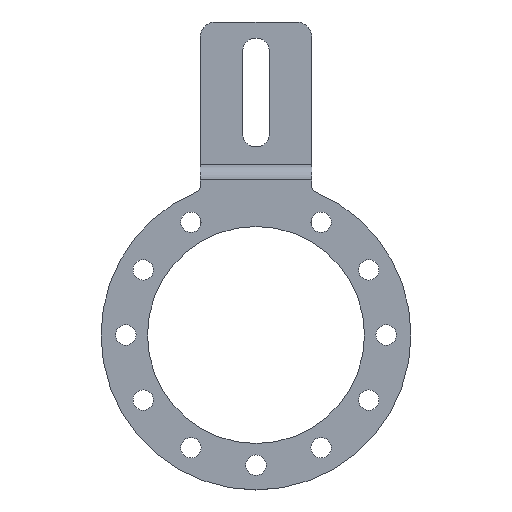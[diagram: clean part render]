
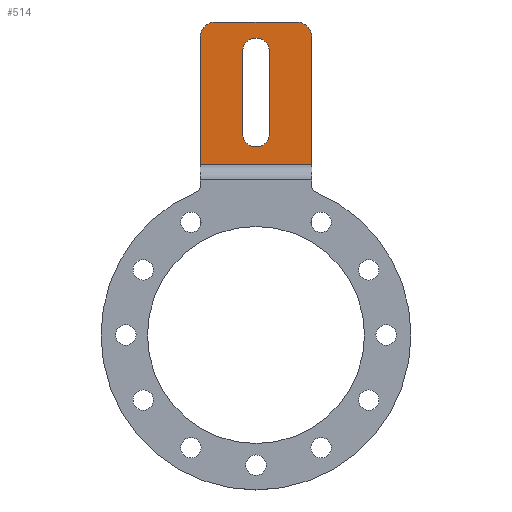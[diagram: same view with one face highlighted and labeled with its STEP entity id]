
A CAD part, top view. The second image highlights one B-rep face of the part: STEP entity #514.
In plain terms, the highlighted planar face has unit normal (0, 0, 1).
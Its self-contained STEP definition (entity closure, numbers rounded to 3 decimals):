
#112 = VERTEX_POINT ( 'NONE', #1093 ) ;
#118 = EDGE_CURVE ( 'NONE', #112, #153, #1085, .T. ) ;
#153 = VERTEX_POINT ( 'NONE', #1200 ) ;
#170 = EDGE_CURVE ( 'NONE', #372, #244, #1305, .T. ) ;
#215 = EDGE_CURVE ( 'NONE', #112, #216, #1431, .T. ) ;
#216 = VERTEX_POINT ( 'NONE', #1426 ) ;
#232 = EDGE_CURVE ( 'NONE', #233, #439, #1391, .T. ) ;
#233 = VERTEX_POINT ( 'NONE', #1387 ) ;
#243 = EDGE_CURVE ( 'NONE', #244, #233, #1489, .T. ) ;
#244 = VERTEX_POINT ( 'NONE', #1608 ) ;
#251 = VERTEX_POINT ( 'NONE', #1603 ) ;
#279 = EDGE_CURVE ( 'NONE', #442, #365, #1630, .T. ) ;
#327 = EDGE_CURVE ( 'NONE', #153, #251, #1699, .T. ) ;
#353 = ORIENTED_EDGE ( 'NONE', *, *, #215, .F. ) ;
#354 = ORIENTED_EDGE ( 'NONE', *, *, #118, .T. ) ;
#357 = ORIENTED_EDGE ( 'NONE', *, *, #279, .T. ) ;
#358 = ORIENTED_EDGE ( 'NONE', *, *, #366, .T. ) ;
#360 = ORIENTED_EDGE ( 'NONE', *, *, #327, .T. ) ;
#361 = ORIENTED_EDGE ( 'NONE', *, *, #444, .T. ) ;
#365 = VERTEX_POINT ( 'NONE', #1913 ) ;
#366 = EDGE_CURVE ( 'NONE', #365, #216, #1881, .T. ) ;
#372 = VERTEX_POINT ( 'NONE', #1829 ) ;
#373 = EDGE_CURVE ( 'NONE', #439, #372, #1923, .T. ) ;
#421 = ORIENTED_EDGE ( 'NONE', *, *, #170, .F. ) ;
#422 = ORIENTED_EDGE ( 'NONE', *, *, #373, .F. ) ;
#423 = ORIENTED_EDGE ( 'NONE', *, *, #232, .F. ) ;
#424 = EDGE_LOOP ( 'NONE', ( #360, #361, #357, #358, #353, #354 ) ) ;
#439 = VERTEX_POINT ( 'NONE', #2015 ) ;
#442 = VERTEX_POINT ( 'NONE', #1982 ) ;
#444 = EDGE_CURVE ( 'NONE', #251, #442, #1980, .T. ) ;
#514 = ADVANCED_FACE ( 'NONE', ( #2288, #2295 ), #2339, .T. ) ;
#515 = EDGE_LOOP ( 'NONE', ( #516, #421, #422, #423 ) ) ;
#516 = ORIENTED_EDGE ( 'NONE', *, *, #243, .F. ) ;
#1081 = DIRECTION ( 'NONE',  ( 1., 0., 0. ) ) ;
#1082 = DIRECTION ( 'NONE',  ( 0., 0., 1. ) ) ;
#1083 = CARTESIAN_POINT ( 'NONE',  ( 6.5, 48., -8.5 ) ) ;
#1084 = AXIS2_PLACEMENT_3D ( 'NONE', #1083, #1082, #1081 ) ;
#1085 = CIRCLE ( 'NONE', #1084, 2.5 ) ;
#1093 = CARTESIAN_POINT ( 'NONE',  ( 9., 48., -8.5 ) ) ;
#1200 = CARTESIAN_POINT ( 'NONE',  ( 6.5, 50.5, -8.5 ) ) ;
#1303 = DIRECTION ( 'NONE',  ( 0., 1., 0. ) ) ;
#1304 = CARTESIAN_POINT ( 'NONE',  ( 2.15, 50.5, -8.5 ) ) ;
#1305 = LINE ( 'NONE', #1304, #1314 ) ;
#1314 = VECTOR ( 'NONE', #1303, 1000. ) ;
#1387 = CARTESIAN_POINT ( 'NONE',  ( -2.15, 45.75, -8.5 ) ) ;
#1388 = DIRECTION ( 'NONE',  ( 0., -1., 0. ) ) ;
#1389 = VECTOR ( 'NONE', #1388, 1000. ) ;
#1390 = CARTESIAN_POINT ( 'NONE',  ( -2.15, 50.5, -8.5 ) ) ;
#1391 = LINE ( 'NONE', #1390, #1389 ) ;
#1426 = CARTESIAN_POINT ( 'NONE',  ( 9., 20., -8.5 ) ) ;
#1428 = DIRECTION ( 'NONE',  ( 0., -1., 0. ) ) ;
#1429 = VECTOR ( 'NONE', #1428, 1000. ) ;
#1430 = CARTESIAN_POINT ( 'NONE',  ( 9., 50.5, -8.5 ) ) ;
#1431 = LINE ( 'NONE', #1430, #1429 ) ;
#1487 = CARTESIAN_POINT ( 'NONE',  ( 0., 45.75, -8.5 ) ) ;
#1488 = AXIS2_PLACEMENT_3D ( 'NONE', #1487, #1610, #1609 ) ;
#1489 = CIRCLE ( 'NONE', #1488, 2.15 ) ;
#1542 = DIRECTION ( 'NONE',  ( 0., -1., 0. ) ) ;
#1543 = VECTOR ( 'NONE', #1542, 1000. ) ;
#1544 = CARTESIAN_POINT ( 'NONE',  ( -9., 50.5, -8.5 ) ) ;
#1603 = CARTESIAN_POINT ( 'NONE',  ( -6.5, 50.5, -8.5 ) ) ;
#1608 = CARTESIAN_POINT ( 'NONE',  ( 2.15, 45.75, -8.5 ) ) ;
#1609 = DIRECTION ( 'NONE',  ( 1., 0., 0. ) ) ;
#1610 = DIRECTION ( 'NONE',  ( 0., 0., 1. ) ) ;
#1630 = LINE ( 'NONE', #1544, #1543 ) ;
#1698 = CARTESIAN_POINT ( 'NONE',  ( -9., 50.5, -8.5 ) ) ;
#1699 = LINE ( 'NONE', #1698, #1796 ) ;
#1795 = DIRECTION ( 'NONE',  ( -1., 0., 0. ) ) ;
#1796 = VECTOR ( 'NONE', #1795, 1000. ) ;
#1829 = CARTESIAN_POINT ( 'NONE',  ( 2.15, 32.5, -8.5 ) ) ;
#1871 = CARTESIAN_POINT ( 'NONE',  ( 0., 32.5, -8.5 ) ) ;
#1879 = DIRECTION ( 'NONE',  ( 1., 0., 0. ) ) ;
#1880 = CARTESIAN_POINT ( 'NONE',  ( -9., 20., -8.5 ) ) ;
#1881 = LINE ( 'NONE', #1880, #1883 ) ;
#1883 = VECTOR ( 'NONE', #1879, 1000. ) ;
#1913 = CARTESIAN_POINT ( 'NONE',  ( -9., 20., -8.5 ) ) ;
#1920 = DIRECTION ( 'NONE',  ( 1., 0., 0. ) ) ;
#1921 = DIRECTION ( 'NONE',  ( 0., 0., 1. ) ) ;
#1922 = AXIS2_PLACEMENT_3D ( 'NONE', #1871, #1921, #1920 ) ;
#1923 = CIRCLE ( 'NONE', #1922, 2.15 ) ;
#1978 = CARTESIAN_POINT ( 'NONE',  ( -6.5, 48., -8.5 ) ) ;
#1979 = AXIS2_PLACEMENT_3D ( 'NONE', #1978, #2063, #2062 ) ;
#1980 = CIRCLE ( 'NONE', #1979, 2.5 ) ;
#1982 = CARTESIAN_POINT ( 'NONE',  ( -9., 48., -8.5 ) ) ;
#2015 = CARTESIAN_POINT ( 'NONE',  ( -2.15, 32.5, -8.5 ) ) ;
#2062 = DIRECTION ( 'NONE',  ( 1., 0., 0. ) ) ;
#2063 = DIRECTION ( 'NONE',  ( 0., 0., 1. ) ) ;
#2288 = FACE_BOUND ( 'NONE', #515, .T. ) ;
#2295 = FACE_OUTER_BOUND ( 'NONE', #424, .T. ) ;
#2338 = CARTESIAN_POINT ( 'NONE',  ( -9., 50.5, -8.5 ) ) ;
#2339 = PLANE ( 'NONE',  #2352 ) ;
#2350 = DIRECTION ( 'NONE',  ( 1., 0., 0. ) ) ;
#2351 = DIRECTION ( 'NONE',  ( 0., 0., 1. ) ) ;
#2352 = AXIS2_PLACEMENT_3D ( 'NONE', #2338, #2351, #2350 ) ;
